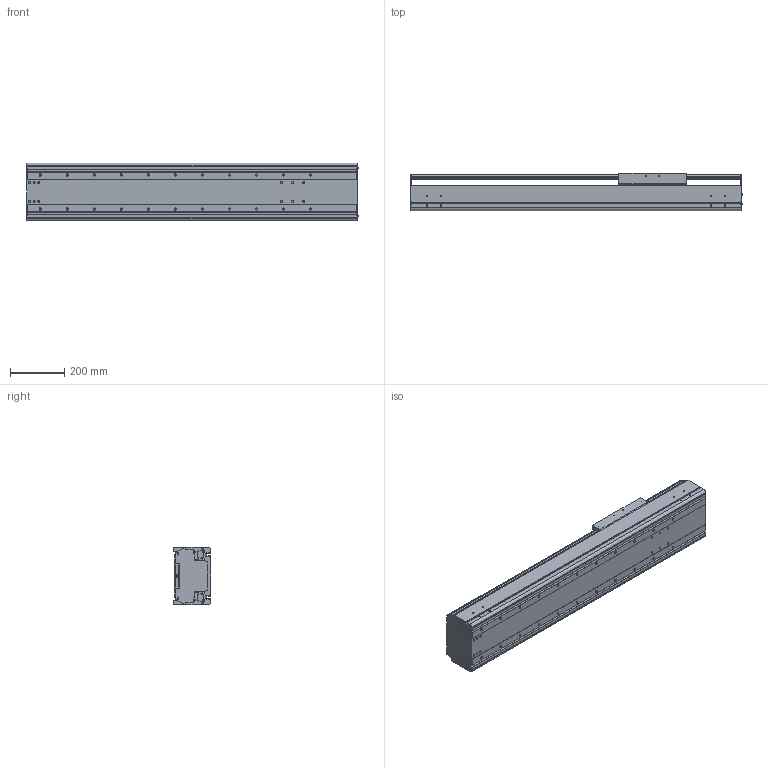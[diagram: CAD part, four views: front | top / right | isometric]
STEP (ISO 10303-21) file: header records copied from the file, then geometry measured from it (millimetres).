
FILE_DESCRIPTION((''),'2;1');
FILE_NAME('BE60J-ST-M_B-70_IGS_PRT','2017-06-18T',(' '),(''),'PRO/ENGINEER BY PARAMETRIC TECHNOLOGY CORPORATION, 2015030','PRO/ENGINEER BY PARAMETRIC TECHNOLOGY CORPORATION, 2015030','');
FILE_SCHEMA(('CONFIG_CONTROL_DESIGN'));
Length unit declared in the file: millimetre
Products named in the file (1): BE60J-ST-M_B-70_IGS_PRT
Bounding box: 1227.4 x 140 x 214 mm (x, y, z)
Volume: 9821068.2 mm3; surface area: 2619394 mm2
Topology: 2 solids, 28 shells, 1085 faces, 2884 edges, 1857 vertices
Faces by surface type: plane 519, cylinder 466, cone 52, torus 24, sphere 24
Entity records: 34075 total; most frequent: CARTESIAN_POINT 6378, DIRECTION 5920, ORIENTED_EDGE 5572, EDGE_CURVE 2834, AXIS2_PLACEMENT_3D 2110, VERTEX_POINT 1856, VECTOR 1700, LINE 1700
